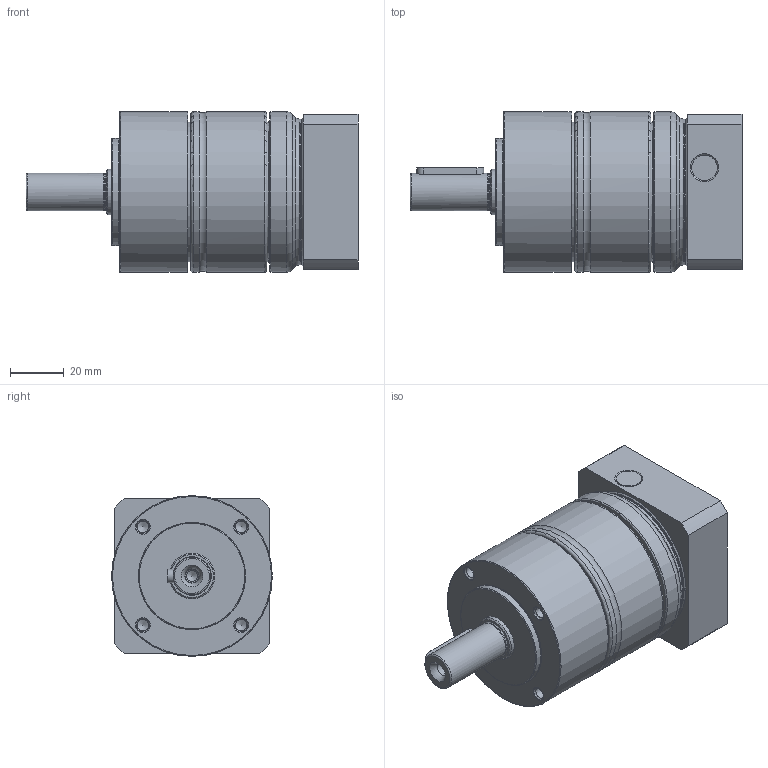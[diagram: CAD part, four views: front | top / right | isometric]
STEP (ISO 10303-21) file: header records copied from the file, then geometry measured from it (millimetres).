
FILE_DESCRIPTION(/* description */ (''),/* implementation_level */ '2;1');
FILE_NAME(/* name */ 'D:\vault\F-JPカタログデータ_byMK\差替え減速機_2023\PG2-060-XXX_NXM4.stp',/* time_stamp */ '2023-08-29T18:28:13+09:00',/* author */ ('jp6u7013'),/* organization */ (''),/* preprocessor_version */ 'ST-DEVELOPER v18.1',/* originating_system */ 'Autodesk Inventor 2021',/* authorisation */ '');
FILE_SCHEMA (('AUTOMOTIVE_DESIGN { 1 0 10303 214 3 1 1 }'));
Length unit declared in the file: millimetre
Products named in the file (1): PG2-060-XXX_NXM4_P0411101417
Bounding box: 124 x 60 x 60 mm (x, y, z)
Volume: 190929.7 mm3; surface area: 54672.4 mm2
Topology: 7 solids, 17 shells, 194 faces, 462 edges, 305 vertices
Faces by surface type: cylinder 66, plane 61, cone 26, torus 25, bspline 16
Full cylindrical faces by diameter (mm): 2.5 x4, 3 x4, 3.4 x4, 4.2 x4, 4.3 x2, 5 x6, 5.3 x1, 5.6 x1, 7.5 x4, 8 x1, 9.5 x2, 10.5 x1, 11 x1, 13.6 x1, 14 x1, 17 x2, 22 x1, 33 x1, 38.5 x1, 39.8 x1, 40 x1, 47.7 x1, 52.057 x1, 52.371 x1, 54.5 x1, 60 x4
Entity records: 11199 total; most frequent: CARTESIAN_POINT 6597, DIRECTION 974, ORIENTED_EDGE 883, EDGE_CURVE 452, AXIS2_PLACEMENT_3D 407, VERTEX_POINT 305, EDGE_LOOP 245, CIRCLE 212
